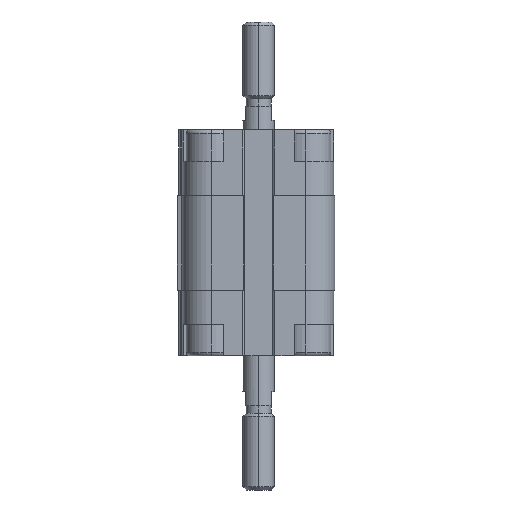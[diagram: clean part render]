
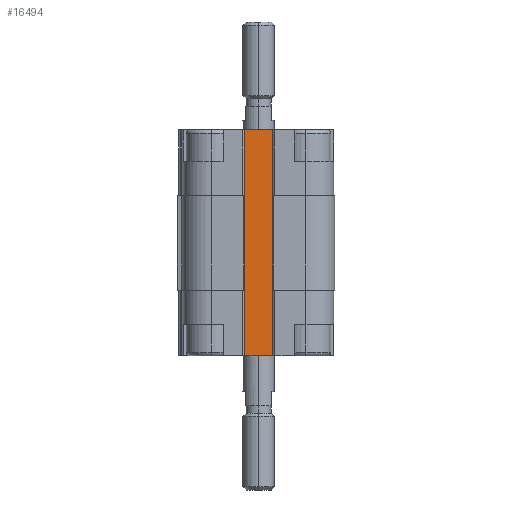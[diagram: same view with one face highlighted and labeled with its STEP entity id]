
A CAD part, left-side view. The second image highlights one B-rep face of the part: STEP entity #16494.
In plain terms, the highlighted planar face has unit normal (-1, 0, 0).
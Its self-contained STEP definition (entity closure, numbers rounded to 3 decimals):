
#37 = VECTOR ( 'NONE', #7862, 1000. ) ;
#220 = ORIENTED_EDGE ( 'NONE', *, *, #2013, .T. ) ;
#573 = EDGE_CURVE ( 'NONE', #3998, #10009, #13773, .T. ) ;
#590 = CARTESIAN_POINT ( 'NONE',  ( -9.5, 3.2, -30.5 ) ) ;
#752 = LINE ( 'NONE', #6216, #16903 ) ;
#1005 = CARTESIAN_POINT ( 'NONE',  ( -9.5, -3., -30.5 ) ) ;
#1149 = VERTEX_POINT ( 'NONE', #6791 ) ;
#1281 = LINE ( 'NONE', #15916, #16538 ) ;
#1390 = DIRECTION ( 'NONE',  ( 0., 0., 1. ) ) ;
#1698 = CARTESIAN_POINT ( 'NONE',  ( -9.5, 3., -43. ) ) ;
#2013 = EDGE_CURVE ( 'NONE', #13847, #17689, #1281, .T. ) ;
#2634 = EDGE_CURVE ( 'NONE', #11211, #6606, #17136, .T. ) ;
#2724 = CARTESIAN_POINT ( 'NONE',  ( -9.5, 3.2, -12.5 ) ) ;
#2733 = CARTESIAN_POINT ( 'NONE',  ( -9.5, 3.2, -30.5 ) ) ;
#2818 = LINE ( 'NONE', #2733, #5143 ) ;
#3400 = CARTESIAN_POINT ( 'NONE',  ( -9.5, 9., -12.5 ) ) ;
#3714 = CARTESIAN_POINT ( 'NONE',  ( -9.5, 3., -43. ) ) ;
#3914 = DIRECTION ( 'NONE',  ( 0., 0., 1. ) ) ;
#3998 = VERTEX_POINT ( 'NONE', #6699 ) ;
#4040 = CARTESIAN_POINT ( 'NONE',  ( -9.5, 3., -12.5 ) ) ;
#4070 = EDGE_CURVE ( 'NONE', #11211, #13762, #9483, .T. ) ;
#4144 = LINE ( 'NONE', #10133, #5059 ) ;
#4165 = CARTESIAN_POINT ( 'NONE',  ( -9.5, 3., -12.5 ) ) ;
#4400 = LINE ( 'NONE', #4040, #11812 ) ;
#4459 = ORIENTED_EDGE ( 'NONE', *, *, #4070, .T. ) ;
#4475 = DIRECTION ( 'NONE',  ( 0., -1., 0. ) ) ;
#4931 = LINE ( 'NONE', #10410, #5522 ) ;
#4941 = ORIENTED_EDGE ( 'NONE', *, *, #9977, .F. ) ;
#5059 = VECTOR ( 'NONE', #16449, 1000. ) ;
#5143 = VECTOR ( 'NONE', #1390, 1000. ) ;
#5522 = VECTOR ( 'NONE', #3914, 1000. ) ;
#5586 = VECTOR ( 'NONE', #12921, 1000. ) ;
#5918 = ORIENTED_EDGE ( 'NONE', *, *, #7140, .T. ) ;
#6115 = VECTOR ( 'NONE', #12114, 1000. ) ;
#6159 = VECTOR ( 'NONE', #8194, 1000. ) ;
#6216 = CARTESIAN_POINT ( 'NONE',  ( -9.5, 3.2, -30.5 ) ) ;
#6606 = VERTEX_POINT ( 'NONE', #7085 ) ;
#6699 = CARTESIAN_POINT ( 'NONE',  ( -9.5, 3.2, -12.5 ) ) ;
#6791 = CARTESIAN_POINT ( 'NONE',  ( -9.5, -3.2, -30.5 ) ) ;
#6796 = VECTOR ( 'NONE', #8217, 1000. ) ;
#7085 = CARTESIAN_POINT ( 'NONE',  ( -9.5, -3.2, -12.5 ) ) ;
#7140 = EDGE_CURVE ( 'NONE', #16847, #11102, #752, .T. ) ;
#7156 = ORIENTED_EDGE ( 'NONE', *, *, #2634, .F. ) ;
#7440 = PLANE ( 'NONE',  #13143 ) ;
#7833 = DIRECTION ( 'NONE',  ( 0., -1., 0. ) ) ;
#7862 = DIRECTION ( 'NONE',  ( 0., 0., 1. ) ) ;
#8006 = EDGE_CURVE ( 'NONE', #13847, #11102, #8608, .T. ) ;
#8161 = LINE ( 'NONE', #15077, #6115 ) ;
#8194 = DIRECTION ( 'NONE',  ( 0., -1., 0. ) ) ;
#8217 = DIRECTION ( 'NONE',  ( 0., -1., 0. ) ) ;
#8418 = EDGE_LOOP ( 'NONE', ( #14282, #14268, #10127, #4941, #5918, #9065, #220, #14394, #11632, #14053, #7156, #4459 ) ) ;
#8608 = LINE ( 'NONE', #1698, #12289 ) ;
#9047 = EDGE_CURVE ( 'NONE', #17689, #11221, #8161, .T. ) ;
#9065 = ORIENTED_EDGE ( 'NONE', *, *, #8006, .F. ) ;
#9483 = LINE ( 'NONE', #10737, #37 ) ;
#9849 = VERTEX_POINT ( 'NONE', #13424 ) ;
#9864 = DIRECTION ( 'NONE',  ( -1., 0., 0. ) ) ;
#9977 = EDGE_CURVE ( 'NONE', #16847, #3998, #2818, .T. ) ;
#10009 = VERTEX_POINT ( 'NONE', #4165 ) ;
#10127 = ORIENTED_EDGE ( 'NONE', *, *, #573, .F. ) ;
#10133 = CARTESIAN_POINT ( 'NONE',  ( -9.5, 3., 0. ) ) ;
#10410 = CARTESIAN_POINT ( 'NONE',  ( -9.5, -3.2, -30.5 ) ) ;
#10737 = CARTESIAN_POINT ( 'NONE',  ( -9.5, -3., -12.5 ) ) ;
#11102 = VERTEX_POINT ( 'NONE', #14682 ) ;
#11211 = VERTEX_POINT ( 'NONE', #12132 ) ;
#11212 = FACE_OUTER_BOUND ( 'NONE', #8418, .T. ) ;
#11221 = VERTEX_POINT ( 'NONE', #1005 ) ;
#11425 = DIRECTION ( 'NONE',  ( 0., -1., 0. ) ) ;
#11632 = ORIENTED_EDGE ( 'NONE', *, *, #15521, .T. ) ;
#11812 = VECTOR ( 'NONE', #12392, 1000. ) ;
#12114 = DIRECTION ( 'NONE',  ( 0., 0., 1. ) ) ;
#12132 = CARTESIAN_POINT ( 'NONE',  ( -9.5, -3., -12.5 ) ) ;
#12289 = VECTOR ( 'NONE', #14086, 1000. ) ;
#12392 = DIRECTION ( 'NONE',  ( 0., 0., 1. ) ) ;
#12407 = CARTESIAN_POINT ( 'NONE',  ( -9.5, -3., -43. ) ) ;
#12918 = CARTESIAN_POINT ( 'NONE',  ( -9.5, 3., -12.5 ) ) ;
#12921 = DIRECTION ( 'NONE',  ( 0., -1., 0. ) ) ;
#13103 = EDGE_CURVE ( 'NONE', #10009, #9849, #4400, .T. ) ;
#13143 = AXIS2_PLACEMENT_3D ( 'NONE', #12918, #9864, #4475 ) ;
#13359 = LINE ( 'NONE', #17758, #6796 ) ;
#13424 = CARTESIAN_POINT ( 'NONE',  ( -9.5, 3., 0. ) ) ;
#13458 = EDGE_CURVE ( 'NONE', #1149, #6606, #4931, .T. ) ;
#13762 = VERTEX_POINT ( 'NONE', #15563 ) ;
#13773 = LINE ( 'NONE', #2724, #6159 ) ;
#13847 = VERTEX_POINT ( 'NONE', #3714 ) ;
#14053 = ORIENTED_EDGE ( 'NONE', *, *, #13458, .T. ) ;
#14086 = DIRECTION ( 'NONE',  ( 0., 0., 1. ) ) ;
#14268 = ORIENTED_EDGE ( 'NONE', *, *, #13103, .F. ) ;
#14282 = ORIENTED_EDGE ( 'NONE', *, *, #17667, .F. ) ;
#14394 = ORIENTED_EDGE ( 'NONE', *, *, #9047, .T. ) ;
#14682 = CARTESIAN_POINT ( 'NONE',  ( -9.5, 3., -30.5 ) ) ;
#15077 = CARTESIAN_POINT ( 'NONE',  ( -9.5, -3., -43. ) ) ;
#15521 = EDGE_CURVE ( 'NONE', #11221, #1149, #13359, .T. ) ;
#15563 = CARTESIAN_POINT ( 'NONE',  ( -9.5, -3., 0. ) ) ;
#15916 = CARTESIAN_POINT ( 'NONE',  ( -9.5, 3., -43. ) ) ;
#16449 = DIRECTION ( 'NONE',  ( 0., -1., 0. ) ) ;
#16494 = ADVANCED_FACE ( 'NONE', ( #11212 ), #7440, .T. ) ;
#16538 = VECTOR ( 'NONE', #7833, 1000. ) ;
#16847 = VERTEX_POINT ( 'NONE', #590 ) ;
#16903 = VECTOR ( 'NONE', #11425, 1000. ) ;
#17136 = LINE ( 'NONE', #3400, #5586 ) ;
#17667 = EDGE_CURVE ( 'NONE', #9849, #13762, #4144, .T. ) ;
#17689 = VERTEX_POINT ( 'NONE', #12407 ) ;
#17758 = CARTESIAN_POINT ( 'NONE',  ( -9.5, 3.2, -30.5 ) ) ;
